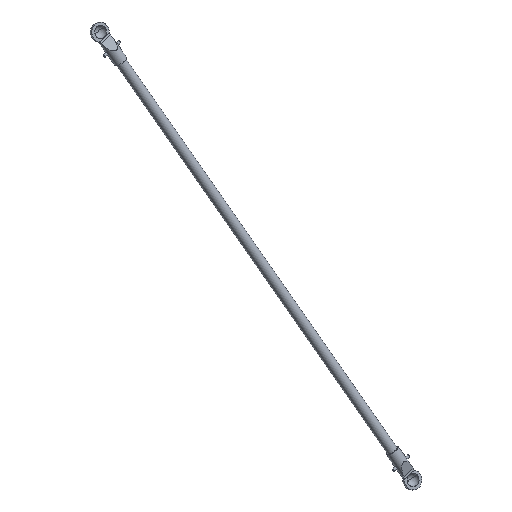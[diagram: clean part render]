
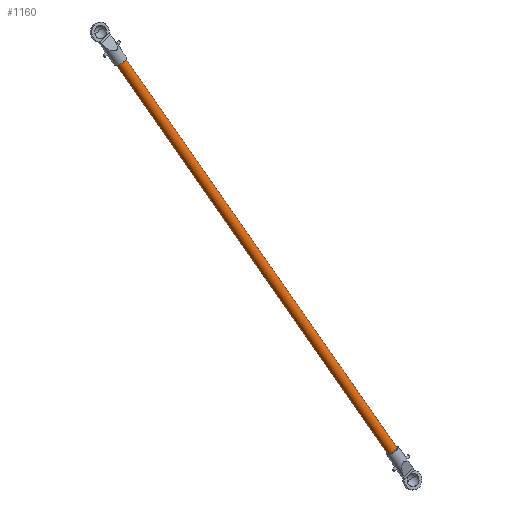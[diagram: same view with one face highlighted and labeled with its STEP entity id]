
A CAD part, left-side view. The second image highlights one B-rep face of the part: STEP entity #1160.
In plain terms, the highlighted cylindrical face has radius 8 mm (diameter 16 mm), a partial arc.
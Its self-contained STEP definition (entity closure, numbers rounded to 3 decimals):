
#37 = EDGE_CURVE ( 'NONE', #1497, #160, #1486, .T. ) ;
#84 = VERTEX_POINT ( 'NONE', #264 ) ;
#108 = ORIENTED_EDGE ( 'NONE', *, *, #1140, .T. ) ;
#138 = VECTOR ( 'NONE', #900, 1000. ) ;
#160 = VERTEX_POINT ( 'NONE', #330 ) ;
#207 = ORIENTED_EDGE ( 'NONE', *, *, #482, .T. ) ;
#264 = CARTESIAN_POINT ( 'NONE',  ( -214.396, 466.732, -311.316 ) ) ;
#330 = CARTESIAN_POINT ( 'NONE',  ( 3.608, 89.139, -852.539 ) ) ;
#354 = ORIENTED_EDGE ( 'NONE', *, *, #1525, .F. ) ;
#389 = CARTESIAN_POINT ( 'NONE',  ( 3.635, 95.705, -857.109 ) ) ;
#481 = DIRECTION ( 'NONE',  ( 0.314, -0.543, -0.779 ) ) ;
#482 = EDGE_CURVE ( 'NONE', #903, #1497, #535, .T. ) ;
#535 = LINE ( 'NONE', #1500, #138 ) ;
#538 = CARTESIAN_POINT ( 'NONE',  ( 3.661, 102.271, -861.68 ) ) ;
#543 = VECTOR ( 'NONE', #481, 1000. ) ;
#597 = LINE ( 'NONE', #1176, #543 ) ;
#662 = ORIENTED_EDGE ( 'NONE', *, *, #37, .T. ) ;
#663 = CARTESIAN_POINT ( 'NONE',  ( -220.329, 483.621, -301.091 ) ) ;
#747 = AXIS2_PLACEMENT_3D ( 'NONE', #663, #1251, #1024 ) ;
#770 = DIRECTION ( 'NONE',  ( -0.314, 0.543, 0.779 ) ) ;
#779 = EDGE_LOOP ( 'NONE', ( #354, #108, #207, #662 ) ) ;
#888 = DIRECTION ( 'NONE',  ( 0.003, 0.821, -0.571 ) ) ;
#900 = DIRECTION ( 'NONE',  ( 0.314, -0.543, -0.779 ) ) ;
#903 = VERTEX_POINT ( 'NONE', #1448 ) ;
#1011 = DIRECTION ( 'NONE',  ( 0.003, 0.821, -0.571 ) ) ;
#1024 = DIRECTION ( 'NONE',  ( 0.003, 0.821, -0.571 ) ) ;
#1129 = AXIS2_PLACEMENT_3D ( 'NONE', #389, #770, #888 ) ;
#1140 = EDGE_CURVE ( 'NONE', #84, #903, #1211, .T. ) ;
#1160 = ADVANCED_FACE ( 'NONE', ( #1498 ), #1379, .T. ) ;
#1176 = CARTESIAN_POINT ( 'NONE',  ( -220.356, 477.055, -296.52 ) ) ;
#1211 = CIRCLE ( 'NONE', #1259, 8. ) ;
#1213 = CARTESIAN_POINT ( 'NONE',  ( -214.369, 473.299, -315.887 ) ) ;
#1251 = DIRECTION ( 'NONE',  ( 0.314, -0.543, -0.779 ) ) ;
#1259 = AXIS2_PLACEMENT_3D ( 'NONE', #1213, #1491, #1011 ) ;
#1379 = CYLINDRICAL_SURFACE ( 'NONE', #747, 8. ) ;
#1448 = CARTESIAN_POINT ( 'NONE',  ( -214.342, 479.865, -320.457 ) ) ;
#1486 = CIRCLE ( 'NONE', #1129, 8. ) ;
#1491 = DIRECTION ( 'NONE',  ( 0.314, -0.543, -0.779 ) ) ;
#1497 = VERTEX_POINT ( 'NONE', #538 ) ;
#1498 = FACE_OUTER_BOUND ( 'NONE', #779, .T. ) ;
#1500 = CARTESIAN_POINT ( 'NONE',  ( -220.302, 490.187, -305.661 ) ) ;
#1525 = EDGE_CURVE ( 'NONE', #84, #160, #597, .T. ) ;
